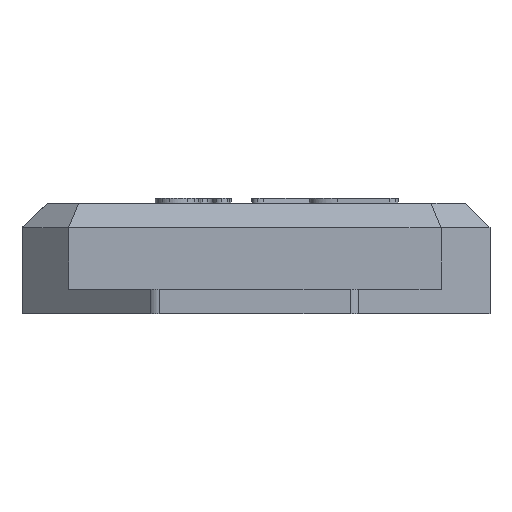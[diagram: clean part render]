
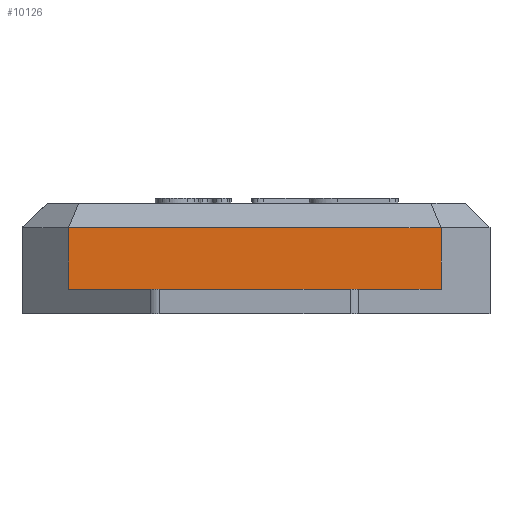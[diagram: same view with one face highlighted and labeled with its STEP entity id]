
A CAD part, front view. The second image highlights one B-rep face of the part: STEP entity #10126.
In plain terms, the highlighted planar face has unit normal (0, -1, 0).
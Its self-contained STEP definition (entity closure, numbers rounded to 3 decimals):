
#958=FACE_OUTER_BOUND('',#1501,.T.);
#1501=EDGE_LOOP('',(#8917,#8918,#8919,#8920,#8921));
#2613=LINE('',#17167,#3791);
#2614=LINE('',#17169,#3792);
#2615=LINE('',#17171,#3793);
#2616=LINE('',#17173,#3794);
#2617=LINE('',#17174,#3795);
#3791=VECTOR('',#12935,10.);
#3792=VECTOR('',#12936,10.);
#3793=VECTOR('',#12937,10.);
#3794=VECTOR('',#12938,10.);
#3795=VECTOR('',#12939,10.);
#4780=VERTEX_POINT('',#17165);
#4781=VERTEX_POINT('',#17166);
#4782=VERTEX_POINT('',#17168);
#4783=VERTEX_POINT('',#17170);
#4784=VERTEX_POINT('',#17172);
#6184=EDGE_CURVE('',#4780,#4781,#2613,.T.);
#6185=EDGE_CURVE('',#4782,#4781,#2614,.T.);
#6186=EDGE_CURVE('',#4783,#4782,#2615,.T.);
#6187=EDGE_CURVE('',#4783,#4784,#2616,.T.);
#6188=EDGE_CURVE('',#4784,#4780,#2617,.T.);
#8917=ORIENTED_EDGE('',*,*,#6184,.T.);
#8918=ORIENTED_EDGE('',*,*,#6185,.F.);
#8919=ORIENTED_EDGE('',*,*,#6186,.F.);
#8920=ORIENTED_EDGE('',*,*,#6187,.T.);
#8921=ORIENTED_EDGE('',*,*,#6188,.T.);
#9609=PLANE('',#10751);
#10126=ADVANCED_FACE('',(#958),#9609,.T.);
#10751=AXIS2_PLACEMENT_3D('',#17164,#12933,#12934);
#12933=DIRECTION('center_axis',(0.,-1.,0.));
#12934=DIRECTION('ref_axis',(1.,0.,0.));
#12935=DIRECTION('',(1.,0.,0.));
#12936=DIRECTION('',(0.,0.,-1.));
#12937=DIRECTION('',(1.,0.,0.));
#12938=DIRECTION('',(0.,0.,-1.));
#12939=DIRECTION('',(1.,0.,0.));
#17164=CARTESIAN_POINT('Origin',(2.296,-1.7,-1.591));
#17165=CARTESIAN_POINT('',(17.5,-1.7,-0.641));
#17166=CARTESIAN_POINT('',(32.704,-1.7,-0.641));
#17167=CARTESIAN_POINT('',(9.96,-1.7,-0.641));
#17168=CARTESIAN_POINT('',(32.704,-1.7,4.409));
#17169=CARTESIAN_POINT('',(32.704,-1.7,-1.591));
#17170=CARTESIAN_POINT('',(2.296,-1.7,4.409));
#17171=CARTESIAN_POINT('',(9.523,-1.7,4.409));
#17172=CARTESIAN_POINT('',(2.296,-1.7,-0.641));
#17173=CARTESIAN_POINT('',(2.296,-1.7,-1.591));
#17174=CARTESIAN_POINT('',(9.96,-1.7,-0.641));
